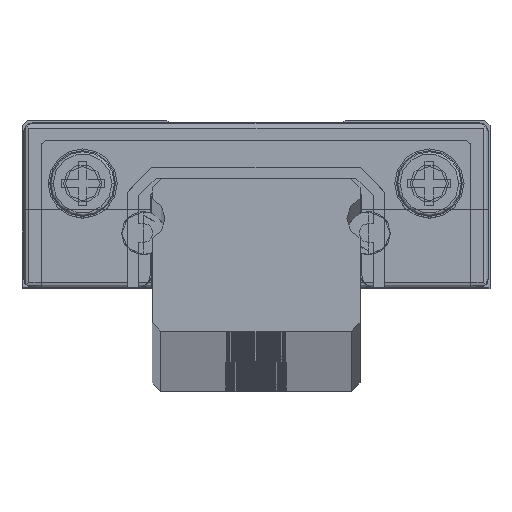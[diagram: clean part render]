
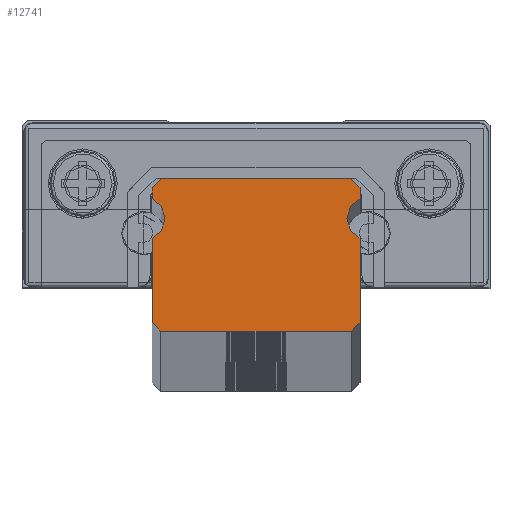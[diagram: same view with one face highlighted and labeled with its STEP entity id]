
A CAD part, top view. The second image highlights one B-rep face of the part: STEP entity #12741.
In plain terms, the highlighted planar face has unit normal (0, 0, 1).
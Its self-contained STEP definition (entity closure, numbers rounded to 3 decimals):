
#6=CARTESIAN_POINT('',(-6.5,6.5,500.));
#7=DIRECTION('',(0.,0.,-1.));
#8=DIRECTION('',(0.4,0.917,0.));
#9=AXIS2_PLACEMENT_3D('',#6,#7,#8);
#455=DIRECTION('',(-1.,0.,0.));
#456=VECTOR('',#455,10.96);
#457=CARTESIAN_POINT('',(5.48,8.8,500.));
#458=LINE('',#457,#456);
#1317=DIRECTION('',(1.,0.,0.));
#1318=VECTOR('',#1317,11.);
#1319=CARTESIAN_POINT('',(-5.5,0.,500.));
#1320=LINE('',#1319,#1318);
#3835=DIRECTION('',(0.,1.,0.));
#3836=VECTOR('',#3835,4.854);
#3837=CARTESIAN_POINT('',(6.,0.5,500.));
#3838=LINE('',#3837,#3836);
#3844=CARTESIAN_POINT('',(6.5,6.5,500.));
#3845=DIRECTION('',(0.,0.,-1.));
#3846=DIRECTION('',(-0.4,-0.917,0.));
#3847=AXIS2_PLACEMENT_3D('',#3844,#3845,#3846);
#3853=DIRECTION('',(0.707,0.707,0.));
#3854=VECTOR('',#3853,0.735);
#3855=CARTESIAN_POINT('',(-6.,8.28,500.));
#3856=LINE('',#3855,#3854);
#3857=DIRECTION('',(0.707,-0.707,0.));
#3858=VECTOR('',#3857,0.735);
#3859=CARTESIAN_POINT('',(5.48,8.8,500.));
#3860=LINE('',#3859,#3858);
#3861=DIRECTION('',(-0.707,-0.707,0.));
#3862=VECTOR('',#3861,0.707);
#3863=CARTESIAN_POINT('',(6.,0.5,500.));
#3864=LINE('',#3863,#3862);
#3865=DIRECTION('',(-0.707,0.707,0.));
#3866=VECTOR('',#3865,0.707);
#3867=CARTESIAN_POINT('',(-5.5,0.,500.));
#3868=LINE('',#3867,#3866);
#3873=DIRECTION('',(0.,-1.,0.));
#3874=VECTOR('',#3873,4.854);
#3875=CARTESIAN_POINT('',(-6.,5.354,500.));
#3876=LINE('',#3875,#3874);
#3885=DIRECTION('',(0.,-1.,0.));
#3886=VECTOR('',#3885,0.634);
#3887=CARTESIAN_POINT('',(-6.,8.28,500.));
#3888=LINE('',#3887,#3886);
#3905=DIRECTION('',(0.,1.,0.));
#3906=VECTOR('',#3905,0.634);
#3907=CARTESIAN_POINT('',(6.,7.646,500.));
#3908=LINE('',#3907,#3906);
#6069=CARTESIAN_POINT('',(-6.,5.354,500.));
#6070=CARTESIAN_POINT('',(-6.,0.5,500.));
#6071=VERTEX_POINT('',#6069);
#6072=VERTEX_POINT('',#6070);
#6073=CARTESIAN_POINT('',(-6.,8.28,500.));
#6074=CARTESIAN_POINT('',(-6.,7.646,500.));
#6075=VERTEX_POINT('',#6073);
#6076=VERTEX_POINT('',#6074);
#6077=CARTESIAN_POINT('',(-5.48,8.8,500.));
#6078=VERTEX_POINT('',#6077);
#6079=CARTESIAN_POINT('',(5.48,8.8,500.));
#6080=VERTEX_POINT('',#6079);
#6081=CARTESIAN_POINT('',(6.,8.28,500.));
#6082=VERTEX_POINT('',#6081);
#6083=CARTESIAN_POINT('',(6.,7.646,500.));
#6084=VERTEX_POINT('',#6083);
#6085=CARTESIAN_POINT('',(6.,0.5,500.));
#6086=CARTESIAN_POINT('',(6.,5.354,500.));
#6087=VERTEX_POINT('',#6085);
#6088=VERTEX_POINT('',#6086);
#6089=CARTESIAN_POINT('',(5.5,0.,500.));
#6090=VERTEX_POINT('',#6089);
#6091=CARTESIAN_POINT('',(-5.5,0.,500.));
#6092=VERTEX_POINT('',#6091);
#12716=CARTESIAN_POINT('',(6.5,6.5,500.));
#12717=DIRECTION('',(0.,0.,1.));
#12718=DIRECTION('',(1.,0.,0.));
#12719=AXIS2_PLACEMENT_3D('',#12716,#12717,#12718);
#12720=PLANE('',#12719);
#12722=ORIENTED_EDGE('',*,*,#12721,.F.);
#12723=ORIENTED_EDGE('',*,*,#7726,.F.);
#12725=ORIENTED_EDGE('',*,*,#12724,.F.);
#12727=ORIENTED_EDGE('',*,*,#12726,.T.);
#12728=ORIENTED_EDGE('',*,*,#7774,.F.);
#12730=ORIENTED_EDGE('',*,*,#12729,.T.);
#12732=ORIENTED_EDGE('',*,*,#12731,.F.);
#12733=ORIENTED_EDGE('',*,*,#12709,.F.);
#12734=ORIENTED_EDGE('',*,*,#12697,.F.);
#12735=ORIENTED_EDGE('',*,*,#12683,.T.);
#12736=ORIENTED_EDGE('',*,*,#8369,.F.);
#12738=ORIENTED_EDGE('',*,*,#12737,.T.);
#12739=EDGE_LOOP('',(#12722,#12723,#12725,#12727,#12728,#12730,#12732,#12733,
#12734,#12735,#12736,#12738));
#12740=FACE_OUTER_BOUND('',#12739,.F.);
#12741=ADVANCED_FACE('',(#12740),#12720,.T.);
#10=CIRCLE('',#9,1.25);
#3848=CIRCLE('',#3847,1.25);
#7726=EDGE_CURVE('',#6076,#6071,#10,.T.);
#7774=EDGE_CURVE('',#6080,#6078,#458,.T.);
#8369=EDGE_CURVE('',#6092,#6090,#1320,.T.);
#12683=EDGE_CURVE('',#6087,#6090,#3864,.T.);
#12697=EDGE_CURVE('',#6087,#6088,#3838,.T.);
#12709=EDGE_CURVE('',#6088,#6084,#3848,.T.);
#12721=EDGE_CURVE('',#6071,#6072,#3876,.T.);
#12724=EDGE_CURVE('',#6075,#6076,#3888,.T.);
#12726=EDGE_CURVE('',#6075,#6078,#3856,.T.);
#12729=EDGE_CURVE('',#6080,#6082,#3860,.T.);
#12731=EDGE_CURVE('',#6084,#6082,#3908,.T.);
#12737=EDGE_CURVE('',#6092,#6072,#3868,.T.);
